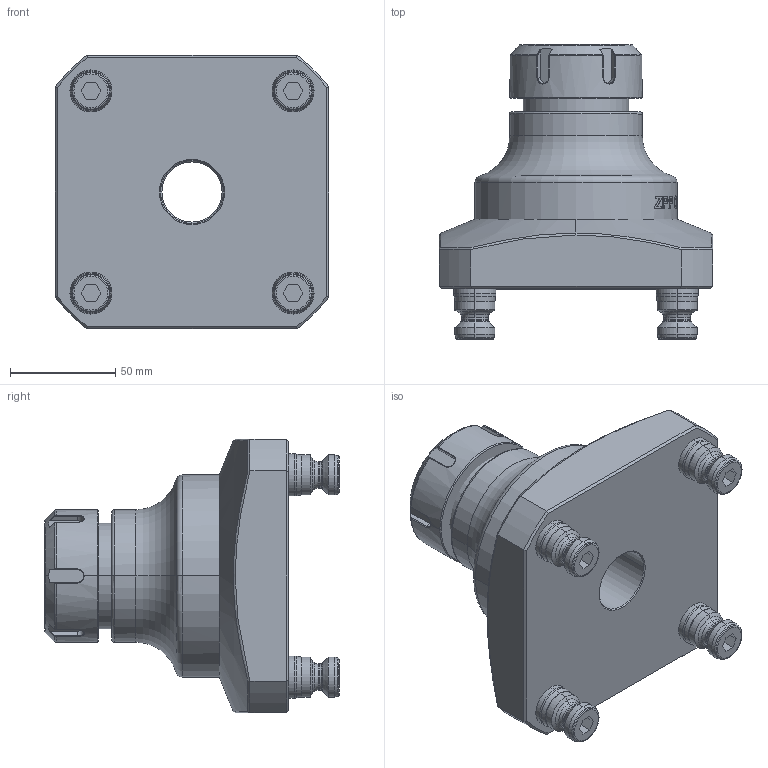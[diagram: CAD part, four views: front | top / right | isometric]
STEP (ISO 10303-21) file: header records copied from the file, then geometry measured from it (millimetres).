
FILE_DESCRIPTION((''),'2;1');
FILE_NAME('ASM0001_ASM','2025-01-09T18:18:06',('XF'),(''),'CREO PARAMETRIC BY PTC INC, 2023073','CREO PARAMETRIC BY PTC INC, 2023073','');
FILE_SCHEMA(('CONFIG_CONTROL_DESIGN'));
Length unit declared in the file: millimetre
Products named in the file (7): TS52-ER40_1_9_1_1; TS52-ER40_2_1_1_1; TS52-ER40_3_13_1_1; ETS52-ER40_ASM_25_ASM_1_ASM; PS20F_1; TS96-ER40_ASM_1_ASM; ASM0001_ASM
Assembly tree (9 placements, depth 4):
  ASM0001_ASM
    TS96-ER40_ASM_1_ASM
      ETS52-ER40_ASM_25_ASM_1_ASM
        TS52-ER40_1_9_1_1
        TS52-ER40_2_1_1_1
        TS52-ER40_3_13_1_1
      PS20F_1  x4
Bounding box: 130 x 140 x 130 mm (x, y, z)
Volume: 758525.1 mm3; surface area: 105597.5 mm2
Topology: 7 solids, 7 shells, 614 faces, 1491 edges, 922 vertices
Faces by surface type: plane 173, torus 114, cylinder 109, extrusion 94, cone 78, bspline 46
Entity records: 16579 total; most frequent: CARTESIAN_POINT 6148, ORIENTED_EDGE 2246, DIRECTION 1914, EDGE_CURVE 1123, VERTEX_POINT 724, AXIS2_PLACEMENT_3D 679, VECTOR 556, EDGE_LOOP 473
